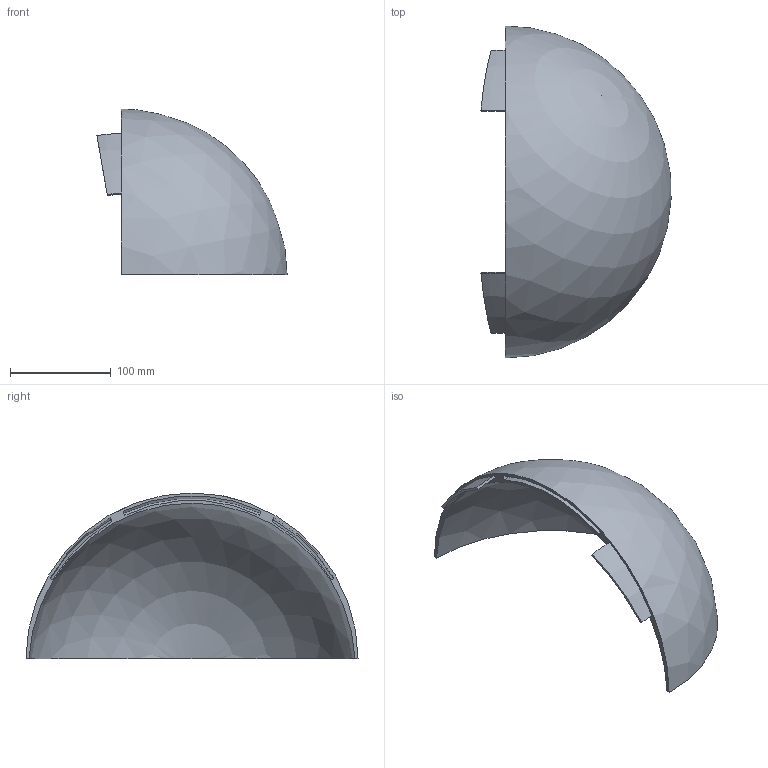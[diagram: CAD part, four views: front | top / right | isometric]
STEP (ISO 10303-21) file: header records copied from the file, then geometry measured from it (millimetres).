
FILE_DESCRIPTION(/* description */ (''),/* implementation_level */ '2;1');
FILE_NAME(/* name */ 'C:/Users/Rasika Jadhav/Downloads/Mission 2 FLoatSat/test bed new 1 v12.step',/* time_stamp */ '2022-05-16T03:05:30+02:00',/* author */ (''),/* organization */ (''),/* preprocessor_version */ 'ST-DEVELOPER v18.1',/* originating_system */ 'Autodesk Translation Framework v10.14.0.1471',/* authorisation */ '');
FILE_SCHEMA (('AUTOMOTIVE_DESIGN { 1 0 10303 214 3 1 1 }'));
Length unit declared in the file: millimetre
Products named in the file (1): test bed new 1
Bounding box: 189.01 x 330 x 165 mm (x, y, z)
Volume: 526834 mm3; surface area: 184330.5 mm2
Topology: 1 solids, 1 shells, 19 faces, 45 edges, 30 vertices
Faces by surface type: sphere 8, cone 6, plane 5
Entity records: 597 total; most frequent: DIRECTION 114, CARTESIAN_POINT 94, ORIENTED_EDGE 88, AXIS2_PLACEMENT_3D 50, EDGE_CURVE 44, CIRCLE 30, VERTEX_POINT 30, EDGE_LOOP 22
